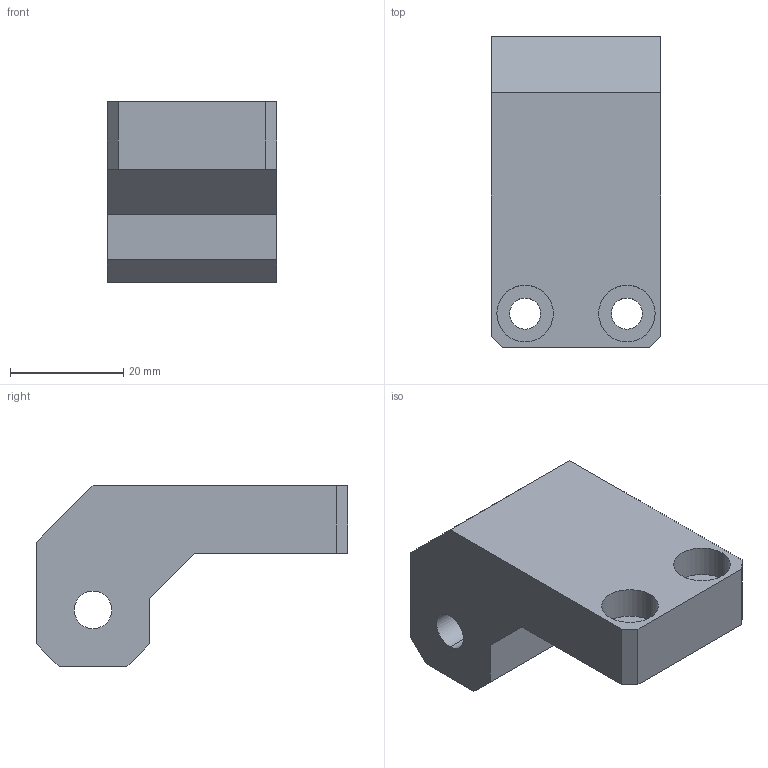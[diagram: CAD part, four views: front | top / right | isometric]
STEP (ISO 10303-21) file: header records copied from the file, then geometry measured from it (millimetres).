
FILE_DESCRIPTION (( 'STEP AP214' ), '1' );
FILE_NAME ('GZ30.24_V1限位块.STEP', '2021-06-16T05:53:15', ( '微软中国' ), ( 'Microsoft' ), 'SwSTEP 2.0', 'SolidWorks 2017', '' );
FILE_SCHEMA (( 'AUTOMOTIVE_DESIGN' ));
Length unit declared in the file: millimetre
Products named in the file (1): GZ30.24_V1癹弇輸
Bounding box: 30 x 55 x 32 mm (x, y, z)
Volume: 28496.3 mm3; surface area: 7816.9 mm2
Topology: 1 solids, 1 shells, 26 faces, 66 edges, 44 vertices
Faces by surface type: plane 16, cylinder 10
Entity records: 858 total; most frequent: DIRECTION 140, CARTESIAN_POINT 137, ORIENTED_EDGE 132, EDGE_CURVE 66, AXIS2_PLACEMENT_3D 47, LINE 46, VECTOR 46, VERTEX_POINT 44
